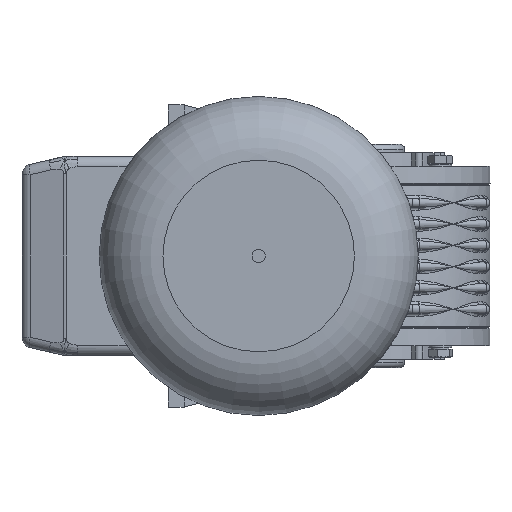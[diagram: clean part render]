
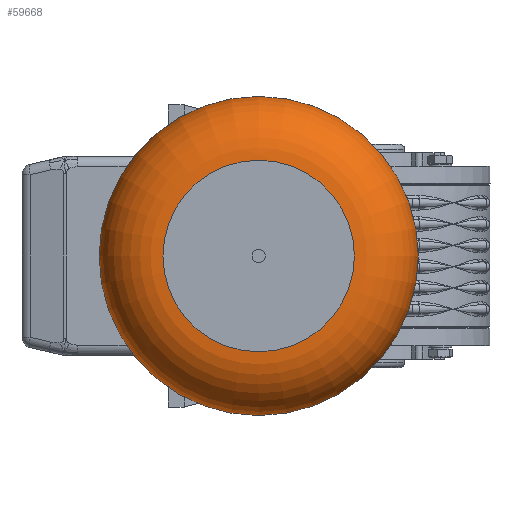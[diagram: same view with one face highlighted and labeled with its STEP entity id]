
A CAD part, left-side view. The second image highlights one B-rep face of the part: STEP entity #59668.
In plain terms, the highlighted toroidal (fillet/blend) face has major radius 36 mm and minor radius 24 mm.
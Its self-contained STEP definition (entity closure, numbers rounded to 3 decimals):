
#59641=CARTESIAN_POINT('',(233.,0.0,0.0));
#59642=DIRECTION('',(1.0,0.0,0.0));
#59643=DIRECTION('',(0.0,0.0,-1.0));
#59644=AXIS2_PLACEMENT_3D('',#59641,#59642,#59643);
#59645=TOROIDAL_SURFACE('',#59644,36.,24.0);
#59646=CARTESIAN_POINT('',(257.0,36.,0.0));
#59647=VERTEX_POINT('',#59646);
#59648=CARTESIAN_POINT('',(257.0,0.0,0.0));
#59649=DIRECTION('',(1.0,0.0,0.0));
#59650=DIRECTION('',(0.0,1.0,0.0));
#59651=AXIS2_PLACEMENT_3D('',#59648,#59649,#59650);
#59652=CIRCLE('',#59651,36.);
#59653=EDGE_CURVE('',#59647,#59647,#59652,.T.);
#59654=ORIENTED_EDGE('',*,*,#59653,.F.);
#59655=EDGE_LOOP('',(#59654));
#59656=FACE_OUTER_BOUND('',#59655,.T.);
#59657=CARTESIAN_POINT('',(233.,60.,0.0));
#59658=VERTEX_POINT('',#59657);
#59659=CARTESIAN_POINT('',(233.,0.0,0.0));
#59660=DIRECTION('',(1.0,0.0,0.0));
#59661=DIRECTION('',(0.0,1.0,0.0));
#59662=AXIS2_PLACEMENT_3D('',#59659,#59660,#59661);
#59663=CIRCLE('',#59662,60.);
#59664=EDGE_CURVE('',#59658,#59658,#59663,.T.);
#59665=ORIENTED_EDGE('',*,*,#59664,.T.);
#59666=EDGE_LOOP('',(#59665));
#59667=FACE_BOUND('',#59666,.T.);
#59668=ADVANCED_FACE('',(#59656,#59667),#59645,.T.);
